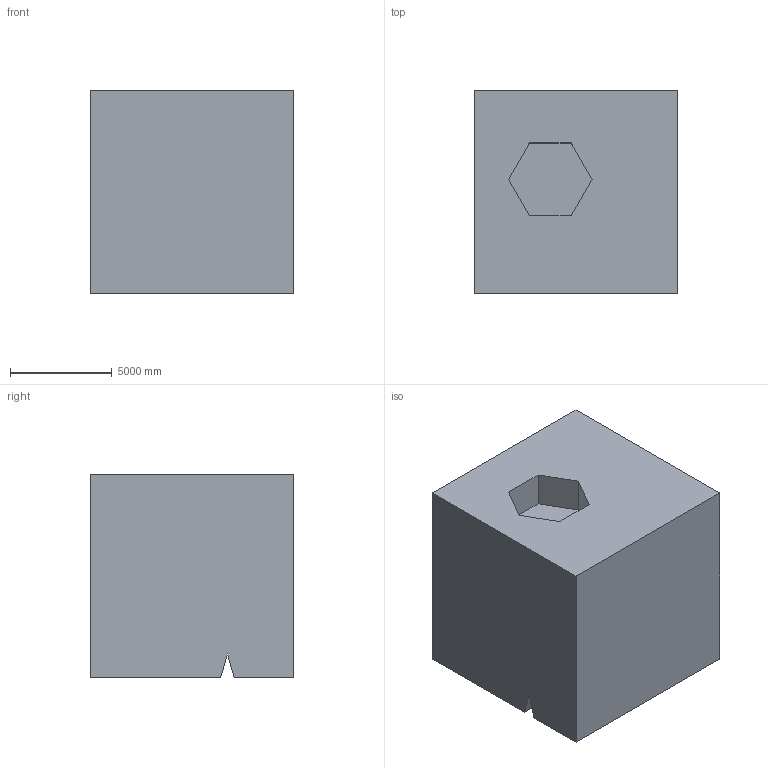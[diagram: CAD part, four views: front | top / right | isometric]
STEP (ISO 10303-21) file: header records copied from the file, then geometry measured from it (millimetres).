
FILE_DESCRIPTION (( 'STEP AP203' ), '1' );
FILE_NAME ('111.STEP', '2022-09-06T15:06:37', ( 'user' ), ( '' ), 'SwSTEP 2.0', 'SolidWorks 2021', '' );
FILE_SCHEMA (( 'CONFIG_CONTROL_DESIGN' ));
Length unit declared in the file: centimetre
Products named in the file (1): 111
Bounding box: 10000 x 10000 x 10000 mm (x, y, z)
Volume: 977094090445.7 mm3; surface area: 638208491.1 mm2
Topology: 1 solids, 1 shells, 16 faces, 39 edges, 26 vertices
Faces by surface type: plane 16
Entity records: 540 total; most frequent: CARTESIAN_POINT 82, ORIENTED_EDGE 78, DIRECTION 73, LINE 39, EDGE_CURVE 39, VECTOR 39, VERTEX_POINT 26, EDGE_LOOP 17
